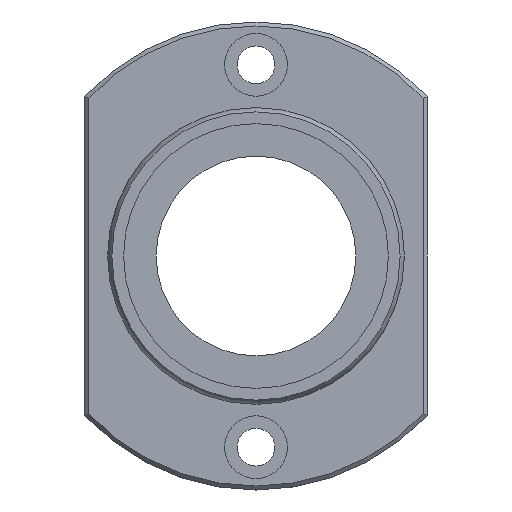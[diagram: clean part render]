
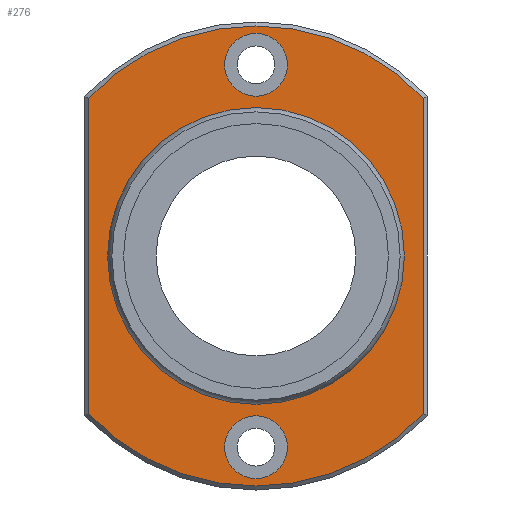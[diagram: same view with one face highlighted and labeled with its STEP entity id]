
A CAD part, left-side view. The second image highlights one B-rep face of the part: STEP entity #276.
In plain terms, the highlighted planar face has unit normal (-1, 0, 0).
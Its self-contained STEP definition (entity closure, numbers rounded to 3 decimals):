
#59=CARTESIAN_POINT('',(62.,-29.3,27.669));
#60=VERTEX_POINT('',#59);
#68=CARTESIAN_POINT('',(62.,-29.3,-27.669));
#69=VERTEX_POINT('',#68);
#70=CARTESIAN_POINT('',(62.,-29.3,27.669));
#71=DIRECTION('',(0.0,0.0,-1.0));
#72=VECTOR('',#71,55.339);
#73=LINE('',#70,#72);
#74=EDGE_CURVE('',#60,#69,#73,.T.);
#101=CARTESIAN_POINT('',(62.,29.3,-27.669));
#102=VERTEX_POINT('',#101);
#103=CARTESIAN_POINT('',(62.,0.0,0.0));
#104=DIRECTION('',(1.0,0.0,0.0));
#105=DIRECTION('',(0.0,0.0,-1.0));
#106=AXIS2_PLACEMENT_3D('',#103,#104,#105);
#107=CIRCLE('',#106,40.3);
#108=EDGE_CURVE('',#69,#102,#107,.T.);
#134=CARTESIAN_POINT('',(62.,29.3,27.669));
#135=VERTEX_POINT('',#134);
#136=CARTESIAN_POINT('',(62.,29.3,-27.669));
#137=DIRECTION('',(0.0,0.0,1.0));
#138=VECTOR('',#137,55.339);
#139=LINE('',#136,#138);
#140=EDGE_CURVE('',#102,#135,#139,.T.);
#165=CARTESIAN_POINT('',(62.,0.0,0.0));
#166=DIRECTION('',(1.0,0.0,0.0));
#167=DIRECTION('',(0.0,0.0,1.0));
#168=AXIS2_PLACEMENT_3D('',#165,#166,#167);
#169=CIRCLE('',#168,40.3);
#170=EDGE_CURVE('',#135,#60,#169,.T.);
#232=CARTESIAN_POINT('',(62.,0.0,33.357));
#233=DIRECTION('',(-1.0,0.0,0.0));
#234=DIRECTION('',(0.0,0.0,1.0));
#235=AXIS2_PLACEMENT_3D('',#232,#233,#234);
#236=PLANE('',#235);
#237=ORIENTED_EDGE('',*,*,#74,.F.);
#238=ORIENTED_EDGE('',*,*,#170,.F.);
#239=ORIENTED_EDGE('',*,*,#140,.F.);
#240=ORIENTED_EDGE('',*,*,#108,.F.);
#241=EDGE_LOOP('',(#237,#238,#239,#240));
#242=FACE_OUTER_BOUND('',#241,.T.);
#243=CARTESIAN_POINT('',(62.0,0.0,25.714));
#244=VERTEX_POINT('',#243);
#245=CARTESIAN_POINT('',(62.0,0.0,0.0));
#246=DIRECTION('',(-1.0,0.0,0.0));
#247=DIRECTION('',(0.0,0.0,1.0));
#248=AXIS2_PLACEMENT_3D('',#245,#246,#247);
#249=CIRCLE('',#248,25.714);
#250=EDGE_CURVE('',#244,#244,#249,.T.);
#251=ORIENTED_EDGE('',*,*,#250,.F.);
#252=EDGE_LOOP('',(#251));
#253=FACE_BOUND('',#252,.T.);
#254=CARTESIAN_POINT('',(62.0,5.5,-33.5));
#255=VERTEX_POINT('',#254);
#256=CARTESIAN_POINT('',(62.,0.,-33.5));
#257=DIRECTION('',(1.0,0.0,0.0));
#258=DIRECTION('',(0.0,1.0,0.0));
#259=AXIS2_PLACEMENT_3D('',#256,#257,#258);
#260=CIRCLE('',#259,5.5);
#261=EDGE_CURVE('',#255,#255,#260,.T.);
#262=ORIENTED_EDGE('',*,*,#261,.T.);
#263=EDGE_LOOP('',(#262));
#264=FACE_BOUND('',#263,.T.);
#265=CARTESIAN_POINT('',(62.0,5.5,33.5));
#266=VERTEX_POINT('',#265);
#267=CARTESIAN_POINT('',(62.,0.,33.5));
#268=DIRECTION('',(1.0,0.0,0.0));
#269=DIRECTION('',(0.0,1.0,0.0));
#270=AXIS2_PLACEMENT_3D('',#267,#268,#269);
#271=CIRCLE('',#270,5.5);
#272=EDGE_CURVE('',#266,#266,#271,.T.);
#273=ORIENTED_EDGE('',*,*,#272,.T.);
#274=EDGE_LOOP('',(#273));
#275=FACE_BOUND('',#274,.T.);
#276=ADVANCED_FACE('',(#242,#253,#264,#275),#236,.T.);
